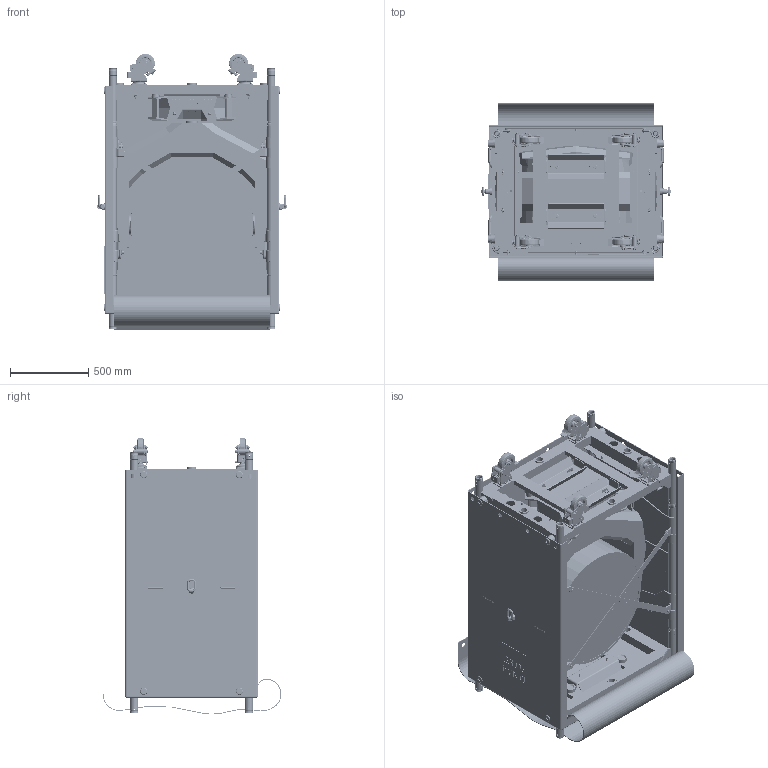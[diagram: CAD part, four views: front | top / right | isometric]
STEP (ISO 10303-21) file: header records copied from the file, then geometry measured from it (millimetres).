
FILE_DESCRIPTION((''),'2;1');
FILE_NAME('GLP-21985_ASM','2025-10-09T11:59:55',('LeovomKolke'),(''),'CREO PARAMETRIC BY PTC INC, 2024133','CREO PARAMETRIC BY PTC INC, 2024133','');
FILE_SCHEMA(('AUTOMOTIVE_DESIGN { 1 0 10303 214 1 1 1 1 }'));
Products named in the file (63): GLP-17098; GLP-17100; GLP-17101; GLP-17102; GLP-17195; GLP-11738; GLP-17359; GLP-17367; GLP-17362; GLP-11347; GLP-10014; GLP-10012; GLP-20356_ASM; GLP-17366; GLP-17165; GLP-14859; GLP-15237; GLP-10022; GLP-14461; GLP-10034; GLP-17500; GLP-17499; GLP-17501_AF8_ASM; GLP-17501_AF9_ASM; GLP-17501_AF10_ASM; GLP-17501_AF11_ASM; GLP-21983_AF0_ASM; GLP-17104; GLP-17109; GLP-17120; GLP-17119; GLP-10506; GLP-17352; GLP-17360; GLP-17363; GLP-17364; GLP-22058_ASM; GLP-22061_ASM; GLP-17361; GLP-17342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
Assembly tree (278 placements, depth 4):
  GLP-21985_ASM
    GLP-21983_AF0_ASM
      GLP-17098
      GLP-17100  x4
      GLP-17101  x2
      GLP-17102  x8
      GLP-17195  x4
      GLP-11738  x8
      GLP-17359  x4
      GLP-17367  x4
      GLP-17362  x2
      GLP-20356_ASM  x8
        GLP-11347
        GLP-10014
        GLP-10012
      GLP-17366  x2
      GLP-17165  x4
      GLP-14859  x20
      GLP-15237  x8
      GLP-10022  x8
      GLP-14461  x4
      GLP-10034  x8
      GLP-17501_AF8_ASM
        GLP-17500
        GLP-10014  x3
        GLP-17499
      GLP-17501_AF9_ASM
        GLP-17500
        GLP-10014  x3
        GLP-17499
      GLP-17501_AF10_ASM
        GLP-17500
        GLP-10014  x3
        GLP-17499
      GLP-17501_AF11_ASM
        GLP-17500
        GLP-10014  x3
        GLP-17499
      GLP-10012  x4
    GLP-21984_ASM  x2
      GLP-17104
      GLP-17109
      GLP-17120
      GLP-17119
      GLP-10506
      GLP-11738
      GLP-22058_ASM
        GLP-17352
        GLP-17360
        GLP-17363
        GLP-17364  x3
      GLP-22061_ASM
        GLP-17352
        GLP-17360
        GLP-17364  x3
        GLP-17363
      GLP-17361
      GLP-22051_ASM
        GLP-17342
        GLP-17341
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Bounding box: 1219.99 x 1143.97 x 1773.42 mm (x, y, z)
Volume: 379887123.9 mm3; surface area: 31827957 mm2
Topology: 633 solids, 925 shells, 31129 faces, 78894 edges, 49049 vertices
Faces by surface type: plane 10374, cylinder 7107, extrusion 3426, cone 2932, bspline 2688, torus 2626, sphere 1920, revolution 56
Entity records: 331967 total; most frequent: CARTESIAN_POINT 82449, DIRECTION 37258, ORIENTED_EDGE 37223, EDGE_CURVE 18743, AXIS2_PLACEMENT_3D 13115, VERTEX_POINT 12000, VECTOR 10843, PRESENTATION_STYLE_ASSIGNMENT 10388
